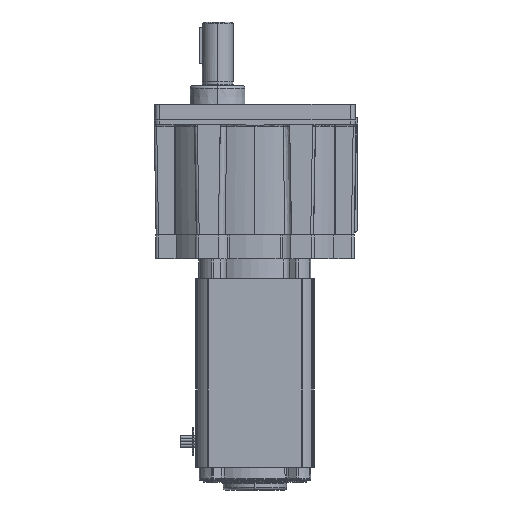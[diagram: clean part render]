
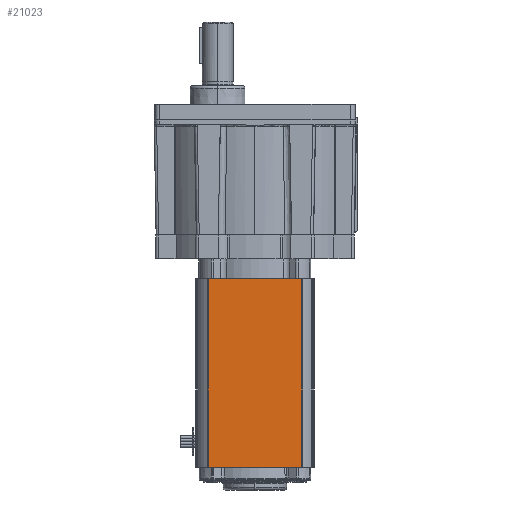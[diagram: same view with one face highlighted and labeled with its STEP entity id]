
A CAD part, left-side view. The second image highlights one B-rep face of the part: STEP entity #21023.
In plain terms, the highlighted planar face has unit normal (-1, 0, 0).
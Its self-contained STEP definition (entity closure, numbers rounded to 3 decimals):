
#471 = VECTOR ( 'NONE', #3431, 1000. ) ;
#591 = CARTESIAN_POINT ( 'NONE',  ( -36.627, -28.842, -29.261 ) ) ;
#1209 = CARTESIAN_POINT ( 'NONE',  ( -36.627, -28.842, -145.669 ) ) ;
#1851 = DIRECTION ( 'NONE',  ( 0., 0., -1. ) ) ;
#2430 = CARTESIAN_POINT ( 'NONE',  ( -36.627, 28.842, -29.261 ) ) ;
#2886 = CARTESIAN_POINT ( 'NONE',  ( -36.627, -28.842, -145.669 ) ) ;
#3431 = DIRECTION ( 'NONE',  ( 0., 0., 1. ) ) ;
#6282 = ORIENTED_EDGE ( 'NONE', *, *, #7870, .F. ) ;
#7837 = EDGE_CURVE ( 'NONE', #48976, #23219, #36638, .T. ) ;
#7870 = EDGE_CURVE ( 'NONE', #41321, #23357, #38478, .T. ) ;
#8910 = CARTESIAN_POINT ( 'NONE',  ( -36.627, -29.35, -29.261 ) ) ;
#9325 = EDGE_CURVE ( 'NONE', #48976, #23357, #29047, .T. ) ;
#10565 = DIRECTION ( 'NONE',  ( -1., 0., 0. ) ) ;
#13256 = CARTESIAN_POINT ( 'NONE',  ( -36.627, 28.842, -147.523 ) ) ;
#14827 = VECTOR ( 'NONE', #36490, 1000. ) ;
#16191 = EDGE_CURVE ( 'NONE', #41321, #23219, #27320, .T. ) ;
#18453 = CARTESIAN_POINT ( 'NONE',  ( -36.627, 28.842, -145.669 ) ) ;
#20719 = DIRECTION ( 'NONE',  ( 0., 1., 0. ) ) ;
#21023 = ADVANCED_FACE ( 'NONE', ( #25911 ), #37977, .T. ) ;
#21870 = CARTESIAN_POINT ( 'NONE',  ( -36.627, -29.35, -147.523 ) ) ;
#22862 = ORIENTED_EDGE ( 'NONE', *, *, #9325, .T. ) ;
#23219 = VERTEX_POINT ( 'NONE', #18453 ) ;
#23357 = VERTEX_POINT ( 'NONE', #591 ) ;
#25911 = FACE_OUTER_BOUND ( 'NONE', #39512, .T. ) ;
#27320 = LINE ( 'NONE', #13256, #32786 ) ;
#28624 = ORIENTED_EDGE ( 'NONE', *, *, #16191, .T. ) ;
#29047 = LINE ( 'NONE', #30101, #471 ) ;
#30101 = CARTESIAN_POINT ( 'NONE',  ( -36.627, -28.842, -147.523 ) ) ;
#32786 = VECTOR ( 'NONE', #1851, 1000. ) ;
#32797 = ORIENTED_EDGE ( 'NONE', *, *, #7837, .F. ) ;
#36490 = DIRECTION ( 'NONE',  ( 0., -1., 0. ) ) ;
#36638 = LINE ( 'NONE', #1209, #46411 ) ;
#37977 = PLANE ( 'NONE',  #48423 ) ;
#38478 = LINE ( 'NONE', #8910, #14827 ) ;
#39512 = EDGE_LOOP ( 'NONE', ( #28624, #32797, #22862, #6282 ) ) ;
#41321 = VERTEX_POINT ( 'NONE', #2430 ) ;
#41744 = DIRECTION ( 'NONE',  ( 0., 0., 1. ) ) ;
#46411 = VECTOR ( 'NONE', #20719, 1000. ) ;
#48423 = AXIS2_PLACEMENT_3D ( 'NONE', #21870, #10565, #41744 ) ;
#48976 = VERTEX_POINT ( 'NONE', #2886 ) ;
